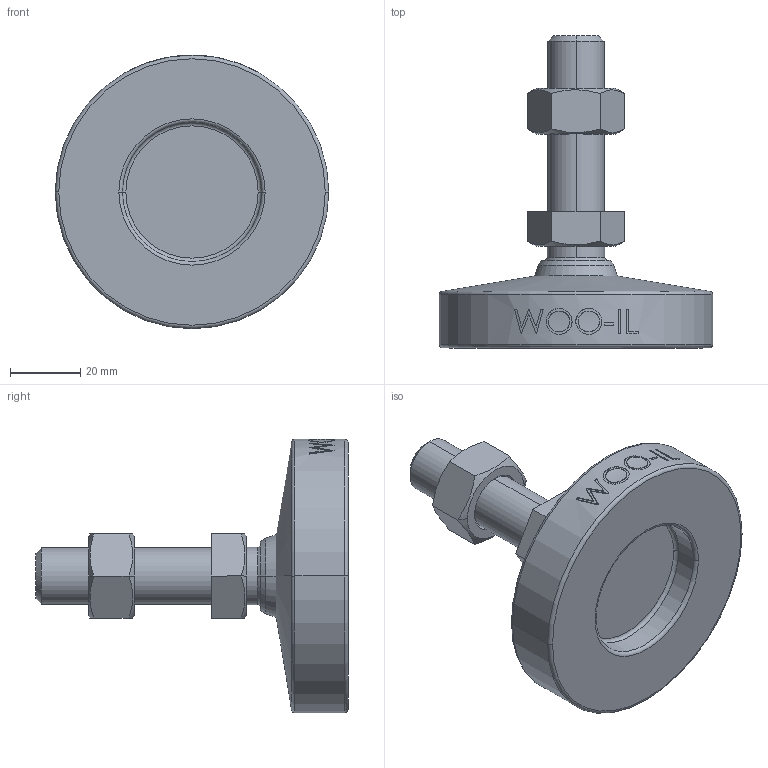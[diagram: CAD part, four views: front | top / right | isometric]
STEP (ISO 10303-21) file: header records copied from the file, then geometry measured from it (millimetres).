
FILE_DESCRIPTION (( 'STEP AP214' ), '1' );
FILE_NAME ('MFN78-M16-50.step', '2021-01-19T06:30:15', ( '' ), ( '' ), 'SwSTEP 2.0', 'SolidWorks 2019', '' );
FILE_SCHEMA (( 'AUTOMOTIVE_DESIGN' ));
Length unit declared in the file: millimetre
Products named in the file (2): MFN78-M16-50
Bounding box: 78 x 89 x 78 mm (x, y, z)
Volume: 97741 mm3; surface area: 20712.6 mm2
Topology: 2 solids, 2 shells, 109 faces, 253 edges, 160 vertices
Faces by surface type: plane 47, cone 18, cylinder 18, bspline 16, torus 8, sphere 2
Entity records: 4621 total; most frequent: CARTESIAN_POINT 2196, ORIENTED_EDGE 506, DIRECTION 461, EDGE_CURVE 253, AXIS2_PLACEMENT_3D 179, VERTEX_POINT 160, EDGE_LOOP 123, ADVANCED_FACE 109
